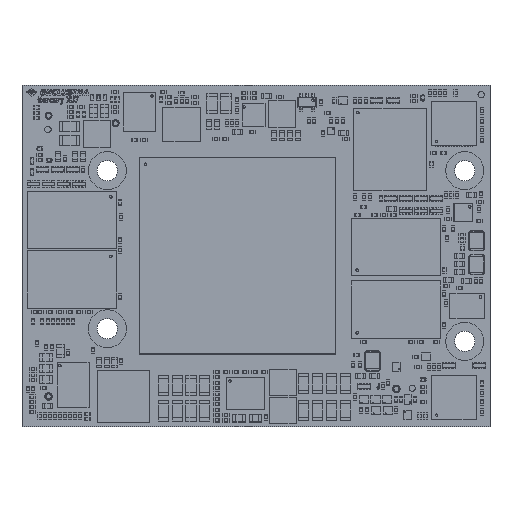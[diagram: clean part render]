
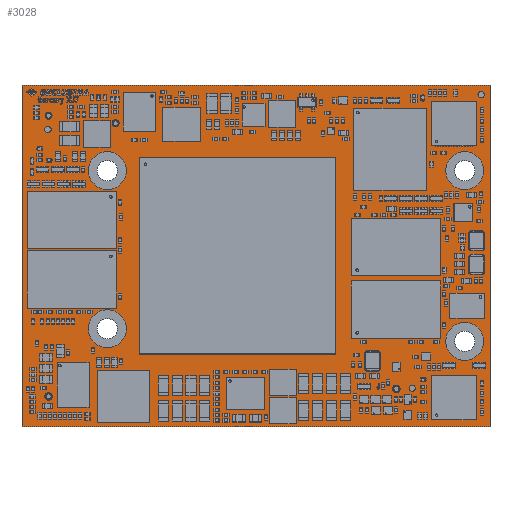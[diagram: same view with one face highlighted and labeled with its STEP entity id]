
A CAD part, top view. The second image highlights one B-rep face of the part: STEP entity #3028.
In plain terms, the highlighted planar face has unit normal (0, 0, 1).
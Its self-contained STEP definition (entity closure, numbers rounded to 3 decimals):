
#2539 = VERTEX_POINT('',#2540);
#2540 = CARTESIAN_POINT('',(0.,0.,0.));
#2546 = EDGE_CURVE('',#2539,#2547,#2549,.T.);
#2547 = VERTEX_POINT('',#2548);
#2548 = CARTESIAN_POINT('',(74.,0.,0.));
#2549 = LINE('',#2550,#2551);
#2550 = CARTESIAN_POINT('',(0.,0.,0.));
#2551 = VECTOR('',#2552,1.);
#2552 = DIRECTION('',(1.,0.,0.));
#2577 = EDGE_CURVE('',#2547,#2578,#2580,.T.);
#2578 = VERTEX_POINT('',#2579);
#2579 = CARTESIAN_POINT('',(74.,54.,0.));
#2580 = LINE('',#2581,#2582);
#2581 = CARTESIAN_POINT('',(74.,0.,0.));
#2582 = VECTOR('',#2583,1.);
#2583 = DIRECTION('',(0.,1.,0.));
#2608 = EDGE_CURVE('',#2578,#2609,#2611,.T.);
#2609 = VERTEX_POINT('',#2610);
#2610 = CARTESIAN_POINT('',(0.,54.,0.));
#2611 = LINE('',#2612,#2613);
#2612 = CARTESIAN_POINT('',(74.,54.,0.));
#2613 = VECTOR('',#2614,1.);
#2614 = DIRECTION('',(-1.,0.,0.));
#2639 = EDGE_CURVE('',#2609,#2539,#2640,.T.);
#2640 = LINE('',#2641,#2642);
#2641 = CARTESIAN_POINT('',(0.,54.,0.));
#2642 = VECTOR('',#2643,1.);
#2643 = DIRECTION('',(0.,-1.,0.));
#2663 = VERTEX_POINT('',#2664);
#2664 = CARTESIAN_POINT('',(4.8,4.8,0.));
#2670 = EDGE_CURVE('',#2663,#2663,#2671,.T.);
#2671 = CIRCLE('',#2672,0.6);
#2672 = AXIS2_PLACEMENT_3D('',#2673,#2674,#2675);
#2673 = CARTESIAN_POINT('',(4.2,4.8,0.));
#2674 = DIRECTION('',(0.,0.,1.));
#2675 = DIRECTION('',(1.,0.,0.));
#2696 = VERTEX_POINT('',#2697);
#2697 = CARTESIAN_POINT('',(15.35,6.,0.));
#2703 = EDGE_CURVE('',#2696,#2696,#2704,.T.);
#2704 = CIRCLE('',#2705,0.55);
#2705 = AXIS2_PLACEMENT_3D('',#2706,#2707,#2708);
#2706 = CARTESIAN_POINT('',(14.8,6.,0.));
#2707 = DIRECTION('',(0.,0.,1.));
#2708 = DIRECTION('',(1.,0.,0.));
#2729 = VERTEX_POINT('',#2730);
#2730 = CARTESIAN_POINT('',(4.75,49.2,0.));
#2736 = EDGE_CURVE('',#2729,#2729,#2737,.T.);
#2737 = CIRCLE('',#2738,0.55);
#2738 = AXIS2_PLACEMENT_3D('',#2739,#2740,#2741);
#2739 = CARTESIAN_POINT('',(4.2,49.2,0.));
#2740 = DIRECTION('',(0.,0.,1.));
#2741 = DIRECTION('',(1.,0.,0.));
#2762 = VERTEX_POINT('',#2763);
#2763 = CARTESIAN_POINT('',(15.1,15.5,0.));
#2769 = EDGE_CURVE('',#2762,#2762,#2770,.T.);
#2770 = CIRCLE('',#2771,1.6);
#2771 = AXIS2_PLACEMENT_3D('',#2772,#2773,#2774);
#2772 = CARTESIAN_POINT('',(13.5,15.5,0.));
#2773 = DIRECTION('',(0.,0.,1.));
#2774 = DIRECTION('',(1.,0.,0.));
#2795 = VERTEX_POINT('',#2796);
#2796 = CARTESIAN_POINT('',(15.1,40.5,0.));
#2802 = EDGE_CURVE('',#2795,#2795,#2803,.T.);
#2803 = CIRCLE('',#2804,1.6);
#2804 = AXIS2_PLACEMENT_3D('',#2805,#2806,#2807);
#2805 = CARTESIAN_POINT('',(13.5,40.5,0.));
#2806 = DIRECTION('',(0.,0.,1.));
#2807 = DIRECTION('',(1.,0.,0.));
#2828 = VERTEX_POINT('',#2829);
#2829 = CARTESIAN_POINT('',(59.8,6.,0.));
#2835 = EDGE_CURVE('',#2828,#2828,#2836,.T.);
#2836 = CIRCLE('',#2837,0.6);
#2837 = AXIS2_PLACEMENT_3D('',#2838,#2839,#2840);
#2838 = CARTESIAN_POINT('',(59.2,6.,0.));
#2839 = DIRECTION('',(0.,0.,1.));
#2840 = DIRECTION('',(1.,0.,0.));
#2861 = VERTEX_POINT('',#2862);
#2862 = CARTESIAN_POINT('',(71.6,13.5,0.));
#2868 = EDGE_CURVE('',#2861,#2861,#2869,.T.);
#2869 = CIRCLE('',#2870,1.6);
#2870 = AXIS2_PLACEMENT_3D('',#2871,#2872,#2873);
#2871 = CARTESIAN_POINT('',(70.,13.5,0.));
#2872 = DIRECTION('',(0.,0.,1.));
#2873 = DIRECTION('',(1.,0.,0.));
#2894 = VERTEX_POINT('',#2895);
#2895 = CARTESIAN_POINT('',(15.35,48.,0.));
#2901 = EDGE_CURVE('',#2894,#2894,#2902,.T.);
#2902 = CIRCLE('',#2903,0.55);
#2903 = AXIS2_PLACEMENT_3D('',#2904,#2905,#2906);
#2904 = CARTESIAN_POINT('',(14.8,48.,0.));
#2905 = DIRECTION('',(0.,0.,1.));
#2906 = DIRECTION('',(1.,0.,0.));
#2927 = VERTEX_POINT('',#2928);
#2928 = CARTESIAN_POINT('',(71.6,40.5,0.));
#2934 = EDGE_CURVE('',#2927,#2927,#2935,.T.);
#2935 = CIRCLE('',#2936,1.6);
#2936 = AXIS2_PLACEMENT_3D('',#2937,#2938,#2939);
#2937 = CARTESIAN_POINT('',(70.,40.5,0.));
#2938 = DIRECTION('',(0.,0.,1.));
#2939 = DIRECTION('',(1.,0.,0.));
#2960 = VERTEX_POINT('',#2961);
#2961 = CARTESIAN_POINT('',(59.8,48.,0.));
#2967 = EDGE_CURVE('',#2960,#2960,#2968,.T.);
#2968 = CIRCLE('',#2969,0.6);
#2969 = AXIS2_PLACEMENT_3D('',#2970,#2971,#2972);
#2970 = CARTESIAN_POINT('',(59.2,48.,0.));
#2971 = DIRECTION('',(0.,0.,1.));
#2972 = DIRECTION('',(1.,0.,0.));
#3028 = ADVANCED_FACE('',(#3029,#3035,#3038,#3041,#3044,#3047,#3050,
    #3053,#3056,#3059,#3062),#3065,.F.);
#3029 = FACE_BOUND('',#3030,.T.);
#3030 = EDGE_LOOP('',(#3031,#3032,#3033,#3034));
#3031 = ORIENTED_EDGE('',*,*,#2546,.T.);
#3032 = ORIENTED_EDGE('',*,*,#2577,.T.);
#3033 = ORIENTED_EDGE('',*,*,#2608,.T.);
#3034 = ORIENTED_EDGE('',*,*,#2639,.T.);
#3035 = FACE_BOUND('',#3036,.F.);
#3036 = EDGE_LOOP('',(#3037));
#3037 = ORIENTED_EDGE('',*,*,#2670,.T.);
#3038 = FACE_BOUND('',#3039,.F.);
#3039 = EDGE_LOOP('',(#3040));
#3040 = ORIENTED_EDGE('',*,*,#2703,.T.);
#3041 = FACE_BOUND('',#3042,.F.);
#3042 = EDGE_LOOP('',(#3043));
#3043 = ORIENTED_EDGE('',*,*,#2736,.T.);
#3044 = FACE_BOUND('',#3045,.F.);
#3045 = EDGE_LOOP('',(#3046));
#3046 = ORIENTED_EDGE('',*,*,#2769,.T.);
#3047 = FACE_BOUND('',#3048,.F.);
#3048 = EDGE_LOOP('',(#3049));
#3049 = ORIENTED_EDGE('',*,*,#2802,.T.);
#3050 = FACE_BOUND('',#3051,.F.);
#3051 = EDGE_LOOP('',(#3052));
#3052 = ORIENTED_EDGE('',*,*,#2835,.T.);
#3053 = FACE_BOUND('',#3054,.F.);
#3054 = EDGE_LOOP('',(#3055));
#3055 = ORIENTED_EDGE('',*,*,#2868,.T.);
#3056 = FACE_BOUND('',#3057,.F.);
#3057 = EDGE_LOOP('',(#3058));
#3058 = ORIENTED_EDGE('',*,*,#2901,.T.);
#3059 = FACE_BOUND('',#3060,.F.);
#3060 = EDGE_LOOP('',(#3061));
#3061 = ORIENTED_EDGE('',*,*,#2934,.T.);
#3062 = FACE_BOUND('',#3063,.F.);
#3063 = EDGE_LOOP('',(#3064));
#3064 = ORIENTED_EDGE('',*,*,#2967,.T.);
#3065 = PLANE('',#3066);
#3066 = AXIS2_PLACEMENT_3D('',#3067,#3068,#3069);
#3067 = CARTESIAN_POINT('',(0.,0.,0.));
#3068 = DIRECTION('',(0.,0.,-1.));
#3069 = DIRECTION('',(-1.,0.,0.));
